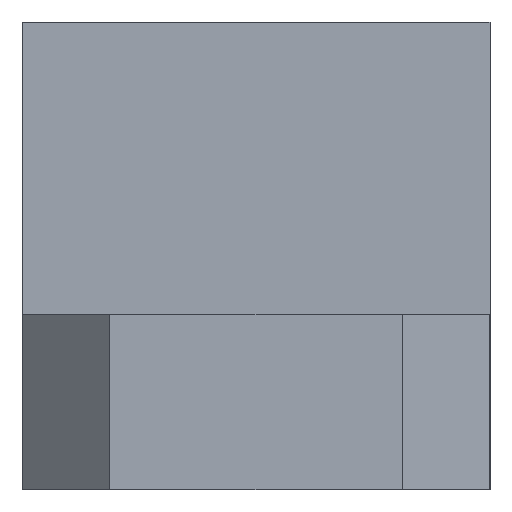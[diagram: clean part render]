
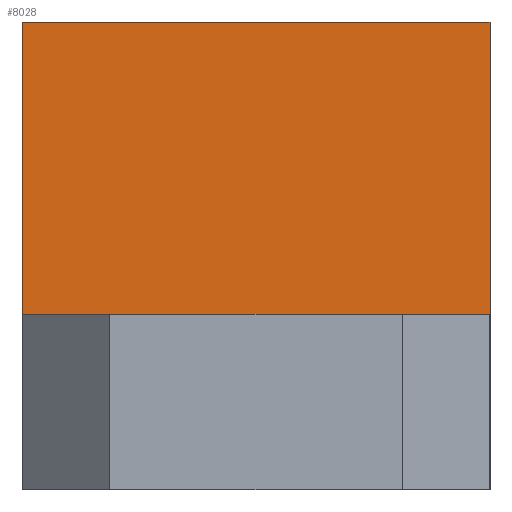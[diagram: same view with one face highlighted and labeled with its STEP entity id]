
A CAD part, left-side view. The second image highlights one B-rep face of the part: STEP entity #8028.
In plain terms, the highlighted planar face has unit normal (-1, 0, 0).
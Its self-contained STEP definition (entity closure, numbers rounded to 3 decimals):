
#469 = LINE ( 'NONE', #1323, #11930 ) ;
#735 = ORIENTED_EDGE ( 'NONE', *, *, #971, .F. ) ;
#737 = DIRECTION ( 'NONE',  ( 0., -1., 0. ) ) ;
#954 = ORIENTED_EDGE ( 'NONE', *, *, #8803, .T. ) ;
#971 = EDGE_CURVE ( 'NONE', #3385, #6618, #2670, .T. ) ;
#1323 = CARTESIAN_POINT ( 'NONE',  ( -20.271, 15.421, 8. ) ) ;
#1461 = DIRECTION ( 'NONE',  ( 0., 0., -1. ) ) ;
#1640 = PLANE ( 'NONE',  #2260 ) ;
#1891 = DIRECTION ( 'NONE',  ( 0., 0., -1. ) ) ;
#2260 = AXIS2_PLACEMENT_3D ( 'NONE', #4419, #2434, #1461 ) ;
#2434 = DIRECTION ( 'NONE',  ( 1., 0., 0. ) ) ;
#2670 = LINE ( 'NONE', #8852, #3837 ) ;
#3385 = VERTEX_POINT ( 'NONE', #4245 ) ;
#3837 = VECTOR ( 'NONE', #10732, 1000. ) ;
#4245 = CARTESIAN_POINT ( 'NONE',  ( -20.271, 7.421, 8. ) ) ;
#4419 = CARTESIAN_POINT ( 'NONE',  ( -20.271, 7.421, 8. ) ) ;
#4488 = CARTESIAN_POINT ( 'NONE',  ( -20.271, 7.421, -2. ) ) ;
#4577 = VECTOR ( 'NONE', #737, 1000. ) ;
#4967 = VERTEX_POINT ( 'NONE', #10172 ) ;
#5430 = ORIENTED_EDGE ( 'NONE', *, *, #6707, .T. ) ;
#5686 = LINE ( 'NONE', #6550, #10947 ) ;
#5827 = EDGE_CURVE ( 'NONE', #4967, #3385, #469, .T. ) ;
#6550 = CARTESIAN_POINT ( 'NONE',  ( -20.271, 23.421, 0. ) ) ;
#6618 = VERTEX_POINT ( 'NONE', #4488 ) ;
#6707 = EDGE_CURVE ( 'NONE', #4967, #9984, #5686, .T. ) ;
#6953 = DIRECTION ( 'NONE',  ( 0., -1., 0. ) ) ;
#7273 = LINE ( 'NONE', #8124, #4577 ) ;
#8028 = ADVANCED_FACE ( 'NONE', ( #10017 ), #1640, .F. ) ;
#8124 = CARTESIAN_POINT ( 'NONE',  ( -20.271, 15.421, -2. ) ) ;
#8803 = EDGE_CURVE ( 'NONE', #9984, #6618, #7273, .T. ) ;
#8852 = CARTESIAN_POINT ( 'NONE',  ( -20.271, 7.421, 3. ) ) ;
#8899 = ORIENTED_EDGE ( 'NONE', *, *, #5827, .F. ) ;
#8963 = CARTESIAN_POINT ( 'NONE',  ( -20.271, 23.421, -2. ) ) ;
#9371 = EDGE_LOOP ( 'NONE', ( #8899, #5430, #954, #735 ) ) ;
#9984 = VERTEX_POINT ( 'NONE', #8963 ) ;
#10017 = FACE_OUTER_BOUND ( 'NONE', #9371, .T. ) ;
#10172 = CARTESIAN_POINT ( 'NONE',  ( -20.271, 23.421, 8. ) ) ;
#10732 = DIRECTION ( 'NONE',  ( 0., 0., -1. ) ) ;
#10947 = VECTOR ( 'NONE', #1891, 1000. ) ;
#11930 = VECTOR ( 'NONE', #6953, 1000. ) ;
